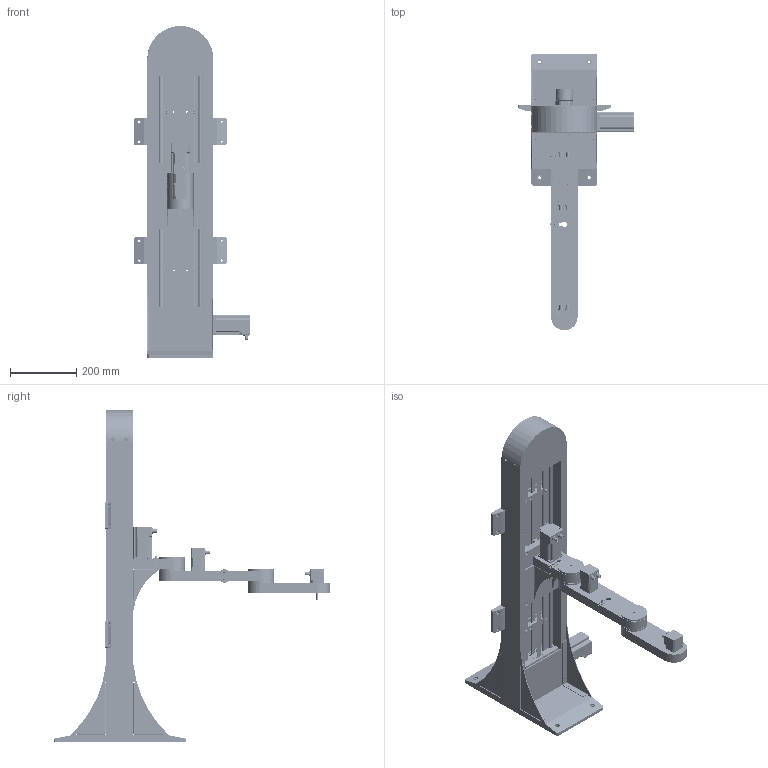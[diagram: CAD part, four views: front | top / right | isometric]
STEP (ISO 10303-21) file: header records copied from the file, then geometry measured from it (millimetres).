
FILE_DESCRIPTION(/* description */ (''),/* implementation_level */ '2;1');
FILE_NAME(/* name */ 'C:\Users\fberger\OneDrive - igus GmbH\Desktop\SCARA\___SCARA.stp',/* time_stamp */ '2021-05-19T15:13:40+02:00',/* author */ ('FBerger'),/* organization */ (''),/* preprocessor_version */ 'ST-DEVELOPER v18.1',/* originating_system */ 'Autodesk Inventor 2020',/* authorisation */ '');
FILE_SCHEMA (('AUTOMOTIVE_DESIGN { 1 0 10303 214 3 1 1 }'));
Products named in the file (20): D00297105.iam; D00297070.ipt; D00297076.ipt; D00297084.ipt; D00297183.ipt; D00297188.ipt; D00297222.ipt; D00297279.ipt; D00297224; D00297240.ipt; D00147894.ipt; D00297422.ipt; D00297429.ipt; D00297692.ipt; D00297460.ipt; D00297495.ipt; ___Ausleger; Achse2; Achse4; Achse3
Assembly tree (22 placements, depth 3):
  D00297105.iam
    D00297070.ipt
    D00297076.ipt  x2
    D00297084.ipt
    D00297183.ipt  x2
    D00297188.ipt  x2
    D00297222.ipt
    D00297279.ipt
    D00297224
    D00297240.ipt
    D00147894.ipt
    D00297422.ipt
    D00297429.ipt
    D00297692.ipt
    D00297460.ipt
    D00297495.ipt
    ___Ausleger
      Achse2
      Achse4
      Achse3
Bounding box: 350.5 x 838 x 1005 mm (x, y, z)
Volume: 6955389.3 mm3; surface area: 2712995.8 mm2
Topology: 130 solids, 147 shells, 5230 faces, 15021 edges, 10248 vertices
Faces by surface type: plane 2750, cylinder 1521, cone 464, torus 251, bspline 170, sphere 74
Full cylindrical faces by diameter (mm): 1 x39, 1.3 x2, 2 x12, 2.013 x18, 2.1 x2, 2.224 x8, 2.459 x16, 2.5 x10, 2.693 x4, 2.75 x4, 2.8 x4, 2.9 x8, 3 x11, 3.2 x8, 3.242 x70, 3.3 x4, 3.4 x16, 4 x12, 4.134 x8, 4.2 x8, 4.3 x46, 4.7 x8, 4.917 x24, 5 x30, 5.3 x8, 5.5 x24, 6 x22, 6.2 x4, 6.35 x1, 6.4 x2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
Entity records: 190306 total; most frequent: CARTESIAN_POINT 50714, DIRECTION 29350, ORIENTED_EDGE 29020, EDGE_CURVE 14510, AXIS2_PLACEMENT_3D 10978, VERTEX_POINT 10048, LINE 7394, VECTOR 7394
